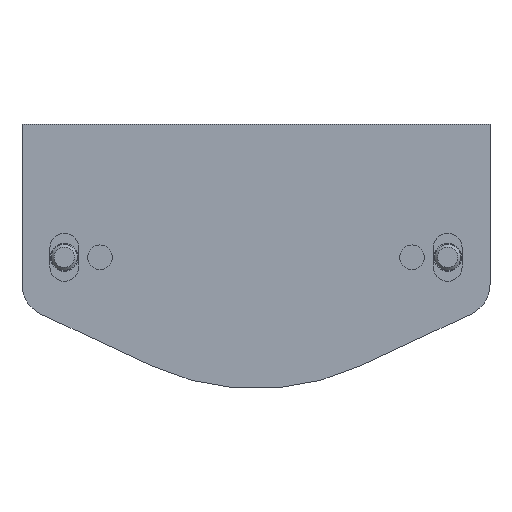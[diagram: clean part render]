
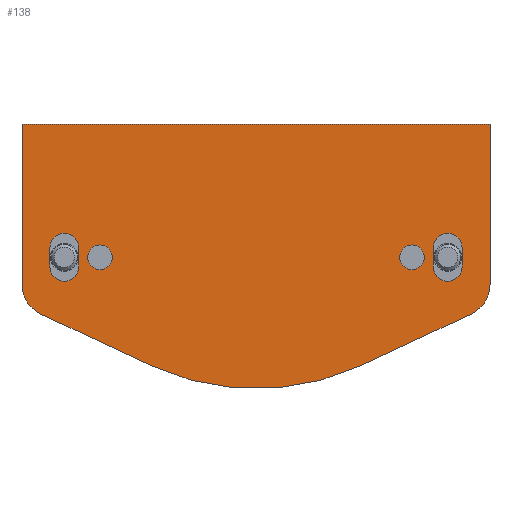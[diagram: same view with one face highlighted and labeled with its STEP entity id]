
A CAD part, front view. The second image highlights one B-rep face of the part: STEP entity #138.
In plain terms, the highlighted planar face has unit normal (0, -1, 0).
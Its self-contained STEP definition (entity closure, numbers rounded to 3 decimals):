
#138 = ADVANCED_FACE( '', ( #300, #301, #302, #303, #304 ), #305, .F. );
#300 = FACE_BOUND( '', #490, .T. );
#301 = FACE_BOUND( '', #491, .T. );
#302 = FACE_BOUND( '', #492, .T. );
#303 = FACE_BOUND( '', #493, .T. );
#304 = FACE_OUTER_BOUND( '', #494, .T. );
#305 = PLANE( '', #495 );
#490 = EDGE_LOOP( '', ( #994 ) );
#491 = EDGE_LOOP( '', ( #995 ) );
#492 = EDGE_LOOP( '', ( #996, #997, #998, #999 ) );
#493 = EDGE_LOOP( '', ( #1000, #1001, #1002, #1003 ) );
#494 = EDGE_LOOP( '', ( #1004, #1005, #1006, #1007, #1008, #1009, #1010, #1011 ) );
#495 = AXIS2_PLACEMENT_3D( '', #1012, #1013, #1014 );
#994 = ORIENTED_EDGE( '', *, *, #1190, .T. );
#995 = ORIENTED_EDGE( '', *, *, #1192, .T. );
#996 = ORIENTED_EDGE( '', *, *, #1267, .T. );
#997 = ORIENTED_EDGE( '', *, *, #1266, .T. );
#998 = ORIENTED_EDGE( '', *, *, #1264, .T. );
#999 = ORIENTED_EDGE( '', *, *, #1262, .T. );
#1000 = ORIENTED_EDGE( '', *, *, #1275, .T. );
#1001 = ORIENTED_EDGE( '', *, *, #1274, .T. );
#1002 = ORIENTED_EDGE( '', *, *, #1272, .T. );
#1003 = ORIENTED_EDGE( '', *, *, #1270, .T. );
#1004 = ORIENTED_EDGE( '', *, *, #1314, .T. );
#1005 = ORIENTED_EDGE( '', *, *, #1292, .F. );
#1006 = ORIENTED_EDGE( '', *, *, #1296, .F. );
#1007 = ORIENTED_EDGE( '', *, *, #1299, .F. );
#1008 = ORIENTED_EDGE( '', *, *, #1302, .F. );
#1009 = ORIENTED_EDGE( '', *, *, #1305, .F. );
#1010 = ORIENTED_EDGE( '', *, *, #1312, .F. );
#1011 = ORIENTED_EDGE( '', *, *, #1315, .F. );
#1012 = CARTESIAN_POINT( '', ( -36., 0., 20.5 ) );
#1013 = DIRECTION( '', ( 0., 1., 0. ) );
#1014 = DIRECTION( '', ( 0., 0., 1. ) );
#1190 = EDGE_CURVE( '', #1411, #1411, #1412, .T. );
#1192 = EDGE_CURVE( '', #1415, #1415, #1416, .T. );
#1262 = EDGE_CURVE( '', #1531, #1533, #1535, .T. );
#1264 = EDGE_CURVE( '', #1536, #1531, #1538, .T. );
#1266 = EDGE_CURVE( '', #1539, #1536, #1541, .T. );
#1267 = EDGE_CURVE( '', #1533, #1539, #1542, .T. );
#1270 = EDGE_CURVE( '', #1543, #1545, #1547, .T. );
#1272 = EDGE_CURVE( '', #1548, #1543, #1550, .T. );
#1274 = EDGE_CURVE( '', #1551, #1548, #1553, .T. );
#1275 = EDGE_CURVE( '', #1545, #1551, #1554, .T. );
#1292 = EDGE_CURVE( '', #1583, #1584, #1585, .T. );
#1296 = EDGE_CURVE( '', #1591, #1583, #1592, .T. );
#1299 = EDGE_CURVE( '', #1596, #1591, #1597, .T. );
#1302 = EDGE_CURVE( '', #1601, #1596, #1602, .T. );
#1305 = EDGE_CURVE( '', #1606, #1601, #1607, .T. );
#1312 = EDGE_CURVE( '', #1616, #1606, #1618, .T. );
#1314 = EDGE_CURVE( '', #1620, #1584, #1621, .T. );
#1315 = EDGE_CURVE( '', #1620, #1616, #1622, .T. );
#1411 = VERTEX_POINT( '', #1736 );
#1412 = CIRCLE( '', #1737, 1.9 );
#1415 = VERTEX_POINT( '', #1740 );
#1416 = CIRCLE( '', #1741, 1.9 );
#1531 = VERTEX_POINT( '', #1900 );
#1533 = VERTEX_POINT( '', #1903 );
#1535 = CIRCLE( '', #1906, 2.2 );
#1536 = VERTEX_POINT( '', #1907 );
#1538 = LINE( '', #1910, #1911 );
#1539 = VERTEX_POINT( '', #1912 );
#1541 = CIRCLE( '', #1915, 2.2 );
#1542 = LINE( '', #1916, #1917 );
#1543 = VERTEX_POINT( '', #1918 );
#1545 = VERTEX_POINT( '', #1921 );
#1547 = CIRCLE( '', #1924, 2.2 );
#1548 = VERTEX_POINT( '', #1925 );
#1550 = LINE( '', #1928, #1929 );
#1551 = VERTEX_POINT( '', #1930 );
#1553 = CIRCLE( '', #1933, 2.2 );
#1554 = LINE( '', #1934, #1935 );
#1583 = VERTEX_POINT( '', #1978 );
#1584 = VERTEX_POINT( '', #1979 );
#1585 = CIRCLE( '', #1980, 5. );
#1591 = VERTEX_POINT( '', #1988 );
#1592 = LINE( '', #1989, #1990 );
#1596 = VERTEX_POINT( '', #1996 );
#1597 = CIRCLE( '', #1997, 38. );
#1601 = VERTEX_POINT( '', #2002 );
#1602 = LINE( '', #2003, #2004 );
#1606 = VERTEX_POINT( '', #2010 );
#1607 = CIRCLE( '', #2011, 5. );
#1616 = VERTEX_POINT( '', #2024 );
#1618 = LINE( '', #2027, #2028 );
#1620 = VERTEX_POINT( '', #2031 );
#1621 = LINE( '', #2032, #2033 );
#1622 = LINE( '', #2034, #2035 );
#1736 = CARTESIAN_POINT( '', ( -22.1, 0., 0. ) );
#1737 = AXIS2_PLACEMENT_3D( '', #2160, #2161, #2162 );
#1740 = CARTESIAN_POINT( '', ( 25.9, 0., 0. ) );
#1741 = AXIS2_PLACEMENT_3D( '', #2166, #2167, #2168 );
#1900 = CARTESIAN_POINT( '', ( -27.3, 0., -1.5 ) );
#1903 = CARTESIAN_POINT( '', ( -31.7, 0., -1.5 ) );
#1906 = AXIS2_PLACEMENT_3D( '', #2284, #2285, #2286 );
#1907 = CARTESIAN_POINT( '', ( -27.3, 0., 1.5 ) );
#1910 = CARTESIAN_POINT( '', ( -27.3, 0., 1.5 ) );
#1911 = VECTOR( '', #2288, 1000. );
#1912 = CARTESIAN_POINT( '', ( -31.7, 0., 1.5 ) );
#1915 = AXIS2_PLACEMENT_3D( '', #2290, #2291, #2292 );
#1916 = CARTESIAN_POINT( '', ( -31.7, 0., -1.5 ) );
#1917 = VECTOR( '', #2293, 1000. );
#1918 = CARTESIAN_POINT( '', ( 31.7, 0., -1.5 ) );
#1921 = CARTESIAN_POINT( '', ( 27.3, 0., -1.5 ) );
#1924 = AXIS2_PLACEMENT_3D( '', #2296, #2297, #2298 );
#1925 = CARTESIAN_POINT( '', ( 31.7, 0., 1.5 ) );
#1928 = CARTESIAN_POINT( '', ( 31.7, 0., 1.5 ) );
#1929 = VECTOR( '', #2300, 1000. );
#1930 = CARTESIAN_POINT( '', ( 27.3, 0., 1.5 ) );
#1933 = AXIS2_PLACEMENT_3D( '', #2302, #2303, #2304 );
#1934 = CARTESIAN_POINT( '', ( 27.3, 0., -1.5 ) );
#1935 = VECTOR( '', #2305, 1000. );
#1978 = CARTESIAN_POINT( '', ( -33.113, 0., -8.738 ) );
#1979 = CARTESIAN_POINT( '', ( -36., 0., -4.206 ) );
#1980 = AXIS2_PLACEMENT_3D( '', #2326, #2327, #2328 );
#1988 = CARTESIAN_POINT( '', ( -16.059, 0., -16.69 ) );
#1989 = CARTESIAN_POINT( '', ( -16.059, 0., -16.69 ) );
#1990 = VECTOR( '', #2334, 1000. );
#1996 = CARTESIAN_POINT( '', ( 16.059, 0., -16.69 ) );
#1997 = AXIS2_PLACEMENT_3D( '', #2337, #2338, #2339 );
#2002 = CARTESIAN_POINT( '', ( 33.113, 0., -8.738 ) );
#2003 = CARTESIAN_POINT( '', ( 33.113, 0., -8.738 ) );
#2004 = VECTOR( '', #2344, 1000. );
#2010 = CARTESIAN_POINT( '', ( 36., 0., -4.206 ) );
#2011 = AXIS2_PLACEMENT_3D( '', #2347, #2348, #2349 );
#2024 = CARTESIAN_POINT( '', ( 36., 0., 20.5 ) );
#2027 = CARTESIAN_POINT( '', ( 36., 0., 20.5 ) );
#2028 = VECTOR( '', #2358, 1000. );
#2031 = CARTESIAN_POINT( '', ( -36., 0., 20.5 ) );
#2032 = CARTESIAN_POINT( '', ( -36., 0., 20.5 ) );
#2033 = VECTOR( '', #2360, 1000. );
#2034 = CARTESIAN_POINT( '', ( -36., 0., 20.5 ) );
#2035 = VECTOR( '', #2361, 1000. );
#2160 = CARTESIAN_POINT( '', ( -24., 0., 0. ) );
#2161 = DIRECTION( '', ( 0., 1., 0. ) );
#2162 = DIRECTION( '', ( 1., 0., 0. ) );
#2166 = CARTESIAN_POINT( '', ( 24., 0., 0. ) );
#2167 = DIRECTION( '', ( 0., 1., 0. ) );
#2168 = DIRECTION( '', ( 1., 0., 0. ) );
#2284 = CARTESIAN_POINT( '', ( -29.5, 0., -1.5 ) );
#2285 = DIRECTION( '', ( 0., 1., 0. ) );
#2286 = DIRECTION( '', ( 1., 0., 0. ) );
#2288 = DIRECTION( '', ( 0., 0., -1. ) );
#2290 = CARTESIAN_POINT( '', ( -29.5, 0., 1.5 ) );
#2291 = DIRECTION( '', ( 0., 1., 0. ) );
#2292 = DIRECTION( '', ( 1., 0., 0. ) );
#2293 = DIRECTION( '', ( 0., 0., 1. ) );
#2296 = CARTESIAN_POINT( '', ( 29.5, 0., -1.5 ) );
#2297 = DIRECTION( '', ( 0., 1., 0. ) );
#2298 = DIRECTION( '', ( 1., 0., 0. ) );
#2300 = DIRECTION( '', ( 0., 0., -1. ) );
#2302 = CARTESIAN_POINT( '', ( 29.5, 0., 1.5 ) );
#2303 = DIRECTION( '', ( 0., 1., 0. ) );
#2304 = DIRECTION( '', ( 1., 0., 0. ) );
#2305 = DIRECTION( '', ( 0., 0., 1. ) );
#2326 = CARTESIAN_POINT( '', ( -31., 0., -4.206 ) );
#2327 = DIRECTION( '', ( 0., 1., 0. ) );
#2328 = DIRECTION( '', ( 1., 0., 0. ) );
#2334 = DIRECTION( '', ( -0.906, 0., 0.423 ) );
#2337 = CARTESIAN_POINT( '', ( 0., 0., 17.749 ) );
#2338 = DIRECTION( '', ( 0., 1., 0. ) );
#2339 = DIRECTION( '', ( 1., 0., 0. ) );
#2344 = DIRECTION( '', ( -0.906, 0., -0.423 ) );
#2347 = CARTESIAN_POINT( '', ( 31., 0., -4.206 ) );
#2348 = DIRECTION( '', ( 0., 1., 0. ) );
#2349 = DIRECTION( '', ( 1., 0., 0. ) );
#2358 = DIRECTION( '', ( 0., 0., -1. ) );
#2360 = DIRECTION( '', ( 0., 0., -1. ) );
#2361 = DIRECTION( '', ( 1., 0., 0. ) );
